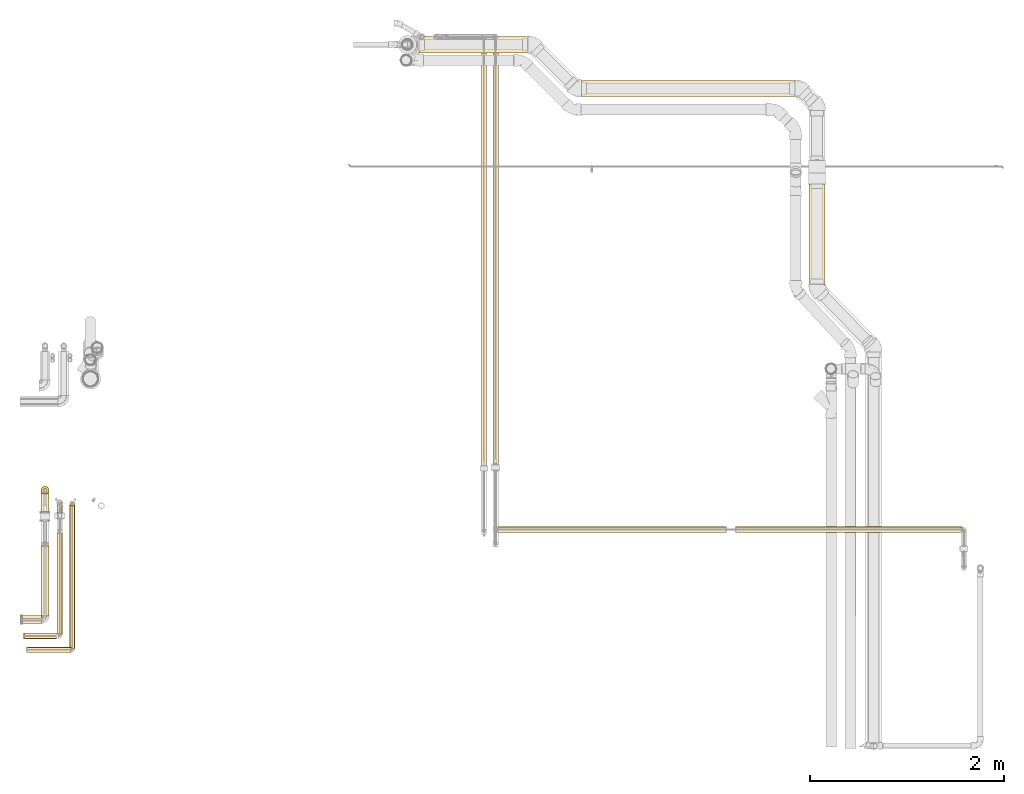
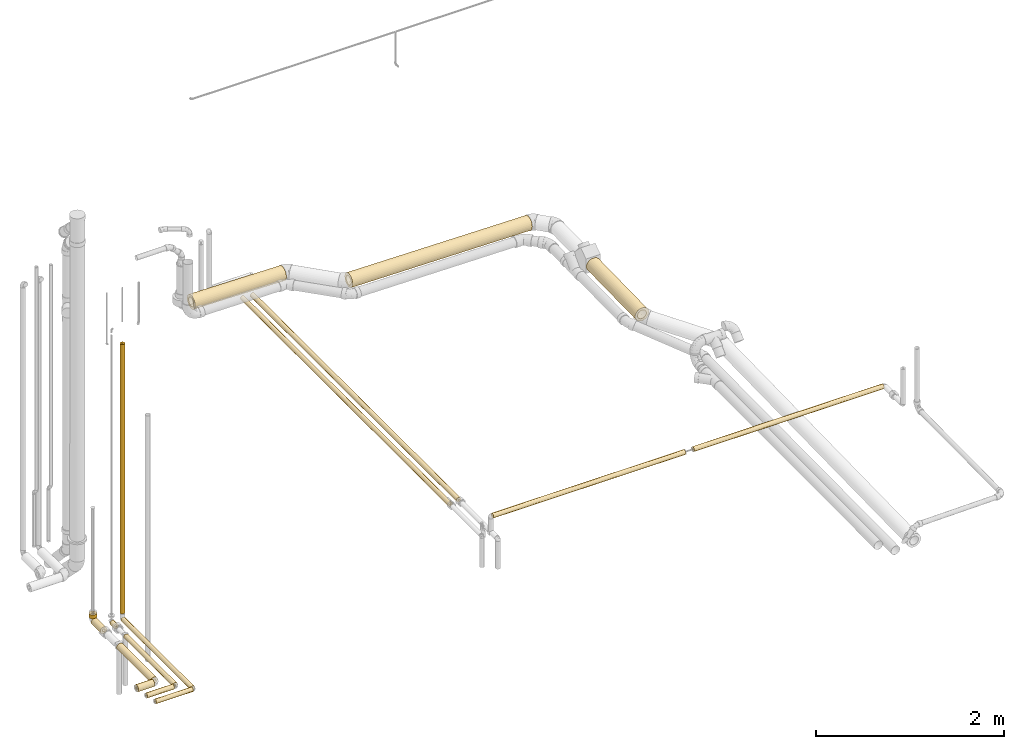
# One storey, part 1 of 78: 17 coverings.
"""IFC2X3 building model written with IfcOpenShell, lengths in millimetres."""

from ifc_helpers import new_model, entity, si_unit, converted_unit, derived_unit, direction, frame, origin_with_axes, origin_2d_with_axis, place, context, subcontext, project, spatial, hollow_circle, extrude, source, transform, mapped, element, save


model = new_model("IFC2X3")

# Units and contexts
model_context = context("Model", 3, precision=0.01, world=frame((0.0, 4.29681676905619e-09, 0.0)), true_north=direction((4.01073788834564e-13, 1.0)))
plan_context = context("Plan", 3, precision=0.01, world=frame((0.0, 4.29681676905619e-09, 0.0)), true_north=direction((4.01073788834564e-13, 1.0)))
body_context = subcontext(model_context, "Body", "Model", "MODEL_VIEW")
ifc_project = project(units=[converted_unit("PLANEANGLEUNIT", "DEGREE", entity("IfcPositiveLengthMeasure", 0.0174532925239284), si_unit("PLANEANGLEUNIT", "RADIAN"), dimensions=[0, 0, 0, 0, 0, 0, 0]), si_unit("AREAUNIT", "SQUARE_METRE"), si_unit("LENGTHUNIT", "METRE", prefix="MILLI"), si_unit("MASSUNIT", "GRAM", prefix="KILO"), si_unit("POWERUNIT", "WATT"), si_unit("PRESSUREUNIT", "PASCAL"), si_unit("FORCEUNIT", "NEWTON", prefix="KILO"), si_unit("ELECTRICVOLTAGEUNIT", "VOLT"), si_unit("ELECTRICCURRENTUNIT", "AMPERE"), si_unit("THERMODYNAMICTEMPERATUREUNIT", "DEGREE_CELSIUS"), si_unit("TIMEUNIT", "SECOND"), si_unit("VOLUMEUNIT", "CUBIC_METRE"), derived_unit("LINEARVELOCITYUNIT", [(si_unit("LENGTHUNIT", "METRE"), 1), (si_unit("TIMEUNIT", "SECOND"), -1)]), derived_unit("VOLUMETRICFLOWRATEUNIT", [(si_unit("VOLUMEUNIT", "CUBIC_METRE"), 1), (si_unit("TIMEUNIT", "SECOND"), -1)]), derived_unit("THERMALTRANSMITTANCEUNIT", [(si_unit("POWERUNIT", "WATT"), 1), (si_unit("THERMODYNAMICTEMPERATUREUNIT", "KELVIN"), -1), (si_unit("AREAUNIT", "SQUARE_METRE"), -1)]), derived_unit("SOUNDPRESSUREUNIT", [(si_unit("PRESSUREUNIT", "PASCAL"), 1)])], contexts=[model_context, plan_context])

# Site, building, storey
site_placement = place(None, frame((0.0, -4.29681676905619e-09, 0.0), z_axis=(0.0, 0.0, 1.0), x_axis=(1.0, 0.0, 0.0)))
site = spatial("IfcSite", under=ifc_project, at=site_placement, Name="ENGM", CompositionType="ELEMENT")
building_placement = place(site_placement, frame((0.0, 4.29681676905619e-09, 0.0), z_axis=(0.0, 0.0, 1.0), x_axis=(1.0, 0.0, 0.0)))
building = spatial("IfcBuilding", under=site, at=building_placement, Name="TH", CompositionType="ELEMENT")
storey_placement = place(building_placement, frame((0.0, 0.0, 205200.0), z_axis=(0.0, 0.0, 1.0), x_axis=(1.0, 0.0, 0.0)))
storey = spatial("IfcBuildingStorey", under=building, at=storey_placement, Name="Nivå D + 1,2 m", CompositionType="ELEMENT", Elevation=205200.0)

# Coverings
shared_shape_1 = source(origin_with_axes(), body_context, "Body", "SweptSolid", [
    extrude(hollow_circle(Radius=27.5, WallThickness=20.0, at=origin_2d_with_axis()), frame((0.0, 0.0, 0.0), z_axis=(1.0, 0.0, 0.0), x_axis=(0.0, 1.0, 0.0)), (0.0, 0.0, 1.0), 4407.7),
])
covering_1_placement = place(storey_placement, frame((899890.50163, 483336.12945, 4212.79203000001), z_axis=(0.0, 0.0, 1.0), x_axis=(0.0, -1.0, 0.0)))
element("IfcCovering", 1, at=covering_1_placement, inside=storey, Name="BI16T - Rørskål m/Al.folie - VV 40mm", PredefinedType="INSULATION", context=body_context, shape_type="MappedRepresentation", body=[
    mapped(shared_shape_1, transform((0.0, 0.0, 0.0), scale=1.0)),
])
shared_shape_2 = source(origin_with_axes(), body_context, "Body", "SweptSolid", [
    extrude(hollow_circle(Radius=41.5, WallThickness=24.0, at=origin_2d_with_axis()), frame((0.0, 0.0, 0.0), z_axis=(1.0, 0.0, 0.0), x_axis=(0.0, 1.0, 0.0)), (0.0, 0.0, 1.0), 50.0),
])
covering_2_placement = place(storey_placement, frame((895369.5, 478680.9125, 4485.0), z_axis=(-1.0, 0.0, 0.0), x_axis=(0.0, 0.0, 1.0)))
element("IfcCovering", 2, at=covering_2_placement, inside=storey, Name="BI20T - Cellegummi 13 mm kalde rør", PredefinedType="INSULATION", context=body_context, shape_type="MappedRepresentation", body=[
    mapped(shared_shape_2, transform((0.0, 0.0, 0.0), scale=1.0)),
])
shared_shape_3 = source(origin_with_axes(), body_context, "Body", "SweptSolid", [
    extrude(hollow_circle(Radius=29.0, WallThickness=20.0, at=origin_2d_with_axis()), frame((0.0, 0.0, 0.0), z_axis=(1.0, 0.0, 0.0), x_axis=(0.0, 1.0, 0.0)), (0.0, 0.0, 1.0), 1041.7),
])
covering_3_placement = place(storey_placement, frame((895520.48466, 478239.37338, 4450.0), z_axis=(0.0, 0.0, 1.0), x_axis=(0.0, -1.0, 0.0)))
element("IfcCovering", 3, at=covering_3_placement, inside=storey, Name="Rørskål m/Al.folje - Varme 55 (uisolert oppheng)", PredefinedType="INSULATION", context=body_context, shape_type="MappedRepresentation", body=[
    mapped(shared_shape_3, transform((0.0, 0.0, 0.0), scale=1.0)),
])
shared_shape_4 = source(origin_with_axes(), body_context, "Body", "SweptSolid", [
    extrude(hollow_circle(Radius=27.5, WallThickness=20.0, at=origin_2d_with_axis()), frame((0.0, 0.0, 0.0), z_axis=(1.0, 0.0, 0.0), x_axis=(0.0, 1.0, 0.0)), (0.0, 0.0, 1.0), 1474.9),
])
covering_4_placement = place(storey_placement, frame((895651.15, 478527.5375, 4450.0), z_axis=(0.0, 0.0, 1.0), x_axis=(0.0, -1.0, 0.0)))
element("IfcCovering", 4, at=covering_4_placement, inside=storey, Name="Rørskål m/Al.folje - Varme 55 (uisolert oppheng)", PredefinedType="INSULATION", context=body_context, shape_type="MappedRepresentation", body=[
    mapped(shared_shape_4, transform((0.0, 0.0, 0.0), scale=1.0)),
])
shared_shape_5 = source(origin_with_axes(), body_context, "Body", "SweptSolid", [
    extrude(hollow_circle(Radius=27.5, WallThickness=20.0, at=origin_2d_with_axis()), frame((0.0, 0.0, 0.0), z_axis=(1.0, 0.0, 0.0), x_axis=(0.0, 1.0, 0.0)), (0.0, 0.0, 1.0), 452.0),
])
covering_5_placement = place(storey_placement, frame((895184.14071, 477037.61197, 4450.0), z_axis=(0.0, 0.0, 1.0), x_axis=(1.0, 0.0, 0.0)))
element("IfcCovering", 5, at=covering_5_placement, inside=storey, Name="Rørskål m/Al.folje - Varme 55 (uisolert oppheng)", PredefinedType="INSULATION", context=body_context, shape_type="MappedRepresentation", body=[
    mapped(shared_shape_5, transform((0.0, 0.0, 0.0), scale=1.0)),
])
shared_shape_6 = source(origin_with_axes(), body_context, "Body", "SweptSolid", [
    extrude(hollow_circle(Radius=29.0, WallThickness=20.0, at=origin_2d_with_axis()), frame((0.0, 0.0, 0.0), z_axis=(1.0, 0.0, 0.0), x_axis=(0.0, 1.0, 0.0)), (0.0, 0.0, 1.0), 328.4),
])
covering_6_placement = place(storey_placement, frame((895157.49734, 477179.65305, 4450.0), z_axis=(0.0, 0.0, 1.0), x_axis=(1.0, 0.0, 0.0)))
element("IfcCovering", 6, at=covering_6_placement, inside=storey, Name="Rørskål m/Al.folje - Varme 55 (uisolert oppheng)", PredefinedType="INSULATION", context=body_context, shape_type="MappedRepresentation", body=[
    mapped(shared_shape_6, transform((0.0, 0.0, 0.0), scale=1.0)),
])
shared_shape_7 = source(origin_with_axes(), body_context, "Body", "SweptSolid", [
    extrude(hollow_circle(Radius=41.5, WallThickness=24.0, at=origin_2d_with_axis()), frame((0.0, 0.0, 0.0), z_axis=(1.0, 0.0, 0.0), x_axis=(0.0, 1.0, 0.0)), (0.0, 0.0, 1.0), 723.0),
])
covering_7_placement = place(storey_placement, frame((895369.5, 478106.37013, 4450.0), z_axis=(0.0, 0.0, 1.0), x_axis=(0.0, -1.0, 0.0)))
element("IfcCovering", 7, at=covering_7_placement, inside=storey, Name="BI20T - Cellegummi 13 mm kalde rør", PredefinedType="INSULATION", context=body_context, shape_type="MappedRepresentation", body=[
    mapped(shared_shape_7, transform((0.0, 0.0, 0.0), scale=1.0)),
])
shared_shape_8 = source(origin_with_axes(), body_context, "Body", "SweptSolid", [
    extrude(hollow_circle(Radius=29.0, WallThickness=20.0, at=origin_2d_with_axis()), frame((0.0, 0.0, 0.0), z_axis=(1.0, 0.0, 0.0), x_axis=(0.0, 1.0, 0.0)), (0.0, 0.0, 1.0), 82.3),
])
covering_8_placement = place(storey_placement, frame((895520.48466, 478448.98509, 4450.0), z_axis=(0.0, 0.0, 1.0), x_axis=(0.0, 1.0, 0.0)))
element("IfcCovering", 8, at=covering_8_placement, inside=storey, Name="Rørskål m/Al.folje - Varme 55 (uisolert oppheng)", PredefinedType="INSULATION", context=body_context, shape_type="MappedRepresentation", body=[
    mapped(shared_shape_8, transform((0.0, 0.0, 0.0), scale=1.0)),
])
shared_shape_9 = source(origin_with_axes(), body_context, "Body", "SweptSolid", [
    extrude(hollow_circle(Radius=41.5, WallThickness=24.0, at=origin_2d_with_axis()), frame((0.0, 0.0, 0.0), z_axis=(1.0, 0.0, 0.0), x_axis=(0.0, 1.0, 0.0)), (0.0, 0.0, 1.0), 194.5),
])
covering_9_placement = place(storey_placement, frame((895369.5, 478451.45641, 4450.0), z_axis=(0.0, 0.0, 1.0), x_axis=(0.0, 1.0, 0.0)))
element("IfcCovering", 9, at=covering_9_placement, inside=storey, Name="BI20T - Cellegummi 13 mm kalde rør", PredefinedType="INSULATION", context=body_context, shape_type="MappedRepresentation", body=[
    mapped(shared_shape_9, transform((0.0, 0.0, 0.0), scale=1.0)),
])
shared_shape_10 = source(origin_with_axes(), body_context, "Body", "SweptSolid", [
    extrude(hollow_circle(Radius=84.0, WallThickness=29.0, at=origin_2d_with_axis()), frame((0.0, 0.0, 0.0), z_axis=(1.0, 0.0, 0.0), x_axis=(0.0, 1.0, 0.0)), (0.0, 0.0, 1.0), 2201.0),
])
covering_10_placement = place(storey_placement, frame((900892.49215, 482818.6253, 4403.37080999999), z_axis=(-0.000196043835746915, -0.999876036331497, -0.0157440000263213), x_axis=(0.999922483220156, 0.0, -0.0124510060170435)))
element("IfcCovering", 10, at=covering_10_placement, inside=storey, Name="BI17T - Cellegummi 13 mm SPV fett", PredefinedType="INSULATION", context=body_context, shape_type="MappedRepresentation", body=[
    mapped(shared_shape_10, transform((0.0, 0.0, 0.0), scale=1.0)),
])
shared_shape_11 = source(origin_with_axes(), body_context, "Body", "SweptSolid", [
    extrude(hollow_circle(Radius=84.0, WallThickness=29.0, at=origin_2d_with_axis()), frame((0.0, 0.0, 0.0), z_axis=(1.0, 0.0, 0.0), x_axis=(0.0, 1.0, 0.0)), (0.0, 0.0, 1.0), 1032.8),
])
covering_11_placement = place(storey_placement, frame((903320.98069, 481834.03276, 4354.48555000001), z_axis=(-0.969135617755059, -0.00492999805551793, 0.24647890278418), x_axis=(4.06955415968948e-07, -0.999800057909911, -0.0199961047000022)))
element("IfcCovering", 11, at=covering_11_placement, inside=storey, Name="BI17T - Cellegummi 13 mm SPV fett", PredefinedType="INSULATION", context=body_context, shape_type="MappedRepresentation", body=[
    mapped(shared_shape_11, transform((0.0, 0.0, 0.0), scale=1.0)),
])
shared_shape_12 = source(origin_with_axes(), body_context, "Body", "SweptSolid", [
    extrude(hollow_circle(Radius=84.0, WallThickness=29.0, at=origin_2d_with_axis()), frame((0.0, 0.0, 0.0), z_axis=(1.0, 0.0, 0.0), x_axis=(0.0, 1.0, 0.0)), (0.0, 0.0, 1.0), 1119.2),
])
covering_12_placement = place(storey_placement, frame((899222.41737, 483269.44468, 4433.98357000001), z_axis=(-0.000115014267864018, -0.999976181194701, -0.00690100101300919), x_axis=(0.999861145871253, 0.0, -0.0166640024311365)))
element("IfcCovering", 12, at=covering_12_placement, inside=storey, Name="BI17T - Cellegummi 13 mm SPV fett", PredefinedType="INSULATION", context=body_context, shape_type="MappedRepresentation", body=[
    mapped(shared_shape_12, transform((0.0, 0.0, 0.0), scale=1.0)),
])
shared_shape_13 = source(origin_with_axes(), body_context, "Body", "SweptSolid", [
    extrude(hollow_circle(Radius=29.0, WallThickness=20.0, at=origin_2d_with_axis()), frame((0.0, 0.0, 0.0), z_axis=(1.0, 0.0, 0.0), x_axis=(0.0, 1.0, 0.0)), (0.0, 0.0, 1.0), 2327.6),
])
covering_13_placement = place(storey_placement, frame((902488.50163, 478275.49112, 4410.0), z_axis=(0.0, 0.0, 1.0), x_axis=(1.0, 0.0, 0.0)))
element("IfcCovering", 13, at=covering_13_placement, inside=storey, Name="BI20T - Cellegummi 13 mm kalde rør", PredefinedType="INSULATION", context=body_context, shape_type="MappedRepresentation", body=[
    mapped(shared_shape_13, transform((0.0, 0.0, 0.0), scale=1.0)),
])
shared_shape_14 = source(origin_with_axes(), body_context, "Body", "SweptSolid", [
    extrude(hollow_circle(Radius=29.0, WallThickness=20.0, at=origin_2d_with_axis()), frame((0.0, 0.0, 0.0), z_axis=(1.0, 0.0, 0.0), x_axis=(0.0, 1.0, 0.0)), (0.0, 0.0, 1.0), 4375.2),
])
covering_14_placement = place(storey_placement, frame((900010.50163, 483333.12926, 4210.0), z_axis=(0.0, 0.0, 1.0), x_axis=(0.0, -1.0, 0.0)))
element("IfcCovering", 14, at=covering_14_placement, inside=storey, Name="BI20T - Cellegummi 13 mm kalde rør", PredefinedType="INSULATION", context=body_context, shape_type="MappedRepresentation", body=[
    mapped(shared_shape_14, transform((0.0, 0.0, 0.0), scale=1.0)),
])
shared_shape_15 = source(origin_with_axes(), body_context, "Body", "SweptSolid", [
    extrude(hollow_circle(Radius=27.5, WallThickness=20.0, at=origin_2d_with_axis()), frame((0.0, 0.0, 0.0), z_axis=(1.0, 0.0, 0.0), x_axis=(0.0, 1.0, 0.0)), (0.0, 0.0, 1.0), 3487.9),
])
covering_15_placement = place(storey_placement, frame((895651.15, 478542.5375, 8015.0), z_axis=(1.0, 0.0, 0.0), x_axis=(0.0, 3.999999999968e-06, -0.999999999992)))
element("IfcCovering", 15, at=covering_15_placement, inside=storey, Name="Rørskål m/Al.folje - Varme 55 (uisolert oppheng)", PredefinedType="INSULATION", context=body_context, shape_type="MappedRepresentation", body=[
    mapped(shared_shape_15, transform((0.0, 0.0, 0.0), scale=1.0)),
])
shared_shape_16 = source(origin_with_axes(), body_context, "Body", "SweptSolid", [
    extrude(hollow_circle(Radius=41.5, WallThickness=24.0, at=origin_2d_with_axis()), frame((0.0, 0.0, 0.0), z_axis=(1.0, 0.0, 0.0), x_axis=(0.0, 1.0, 0.0)), (0.0, 0.0, 1.0), 198.2),
])
covering_16_placement = place(storey_placement, frame((895334.5, 477348.36592, 4450.0), z_axis=(0.0, 0.0, 1.0), x_axis=(-1.0, 0.0, 0.0)))
element("IfcCovering", 16, at=covering_16_placement, inside=storey, Name="BI20T - Cellegummi 13 mm kalde rør", PredefinedType="INSULATION", context=body_context, shape_type="MappedRepresentation", body=[
    mapped(shared_shape_16, transform((0.0, 0.0, 0.0), scale=1.0)),
])
shared_shape_17 = source(origin_with_axes(), body_context, "Body", "SweptSolid", [
    extrude(hollow_circle(Radius=29.0, WallThickness=20.0, at=origin_2d_with_axis()), frame((0.0, 0.0, 0.0), z_axis=(1.0, 0.0, 0.0), x_axis=(0.0, 1.0, 0.0)), (0.0, 0.0, 1.0), 2355.0),
])
covering_17_placement = place(storey_placement, frame((900028.50163, 478275.49112, 4410.0), z_axis=(0.0, 0.0, 1.0), x_axis=(1.0, 0.0, 0.0)))
element("IfcCovering", 17, at=covering_17_placement, inside=storey, Name="BI20T - Cellegummi 13 mm kalde rør", PredefinedType="INSULATION", context=body_context, shape_type="MappedRepresentation", body=[
    mapped(shared_shape_17, transform((0.0, 0.0, 0.0), scale=1.0)),
])

save(model, "model.ifc")
